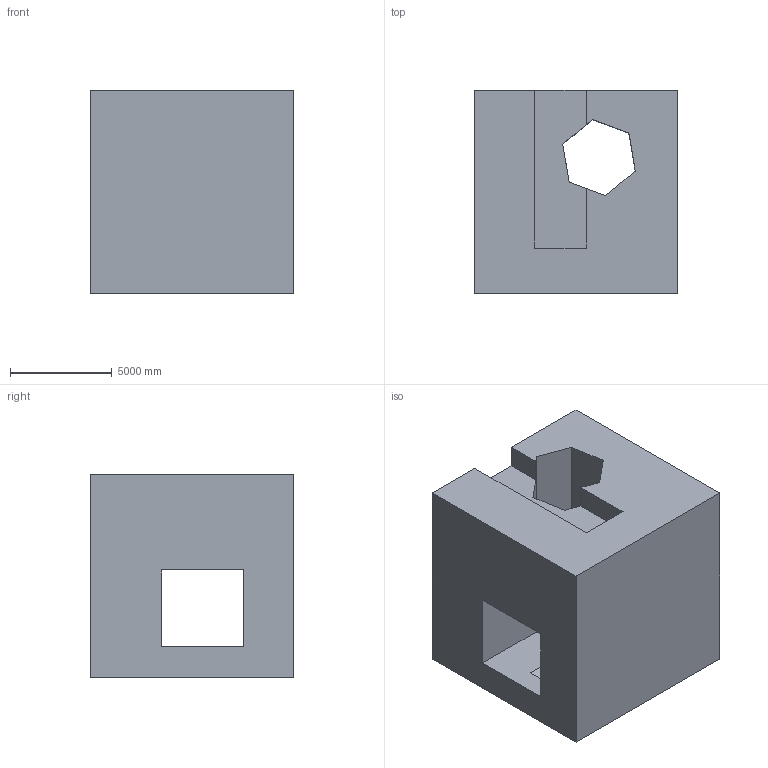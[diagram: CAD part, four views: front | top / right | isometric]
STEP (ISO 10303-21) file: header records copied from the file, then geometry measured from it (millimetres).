
FILE_DESCRIPTION (( 'STEP AP203' ), '1' );
FILE_NAME ('79.STEP', '2022-08-31T11:26:31', ( 'user' ), ( '' ), 'SwSTEP 2.0', 'SolidWorks 2021', '' );
FILE_SCHEMA (( 'CONFIG_CONTROL_DESIGN' ));
Length unit declared in the file: centimetre
Products named in the file (1): 79
Bounding box: 10000 x 10000 x 10000 mm (x, y, z)
Volume: 727461846885.5 mm3; surface area: 803899505.2 mm2
Topology: 1 solids, 1 shells, 29 faces, 90 edges, 60 vertices
Faces by surface type: plane 29
Entity records: 1073 total; most frequent: CARTESIAN_POINT 180, ORIENTED_EDGE 180, DIRECTION 150, EDGE_CURVE 90, LINE 90, VECTOR 90, VERTEX_POINT 60, EDGE_LOOP 32
